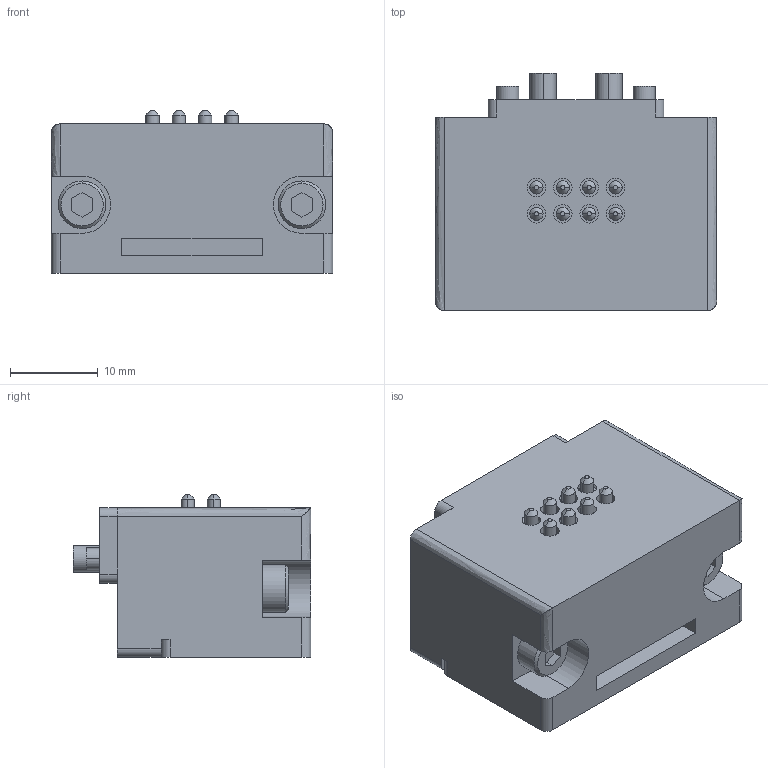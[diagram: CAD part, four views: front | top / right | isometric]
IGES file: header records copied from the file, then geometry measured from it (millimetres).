
Start section: 3D InterOp IGES (v. 2022 1.0.0), Spatial Corp. Copyright (c) 1999-2020.
Global section: file name: KHB-1HS-D38_ver1.igs; native system: Spatial Corp.; preprocessor: 3D InterOp GENERIC/IGES 3.0; author: Noname; organization: Noname; date: 20260424.090655; units: millimetre
Bounding box: 32 x 27 x 18.5 mm (x, y, z)
Surface area: 5327.5 mm2 (no closed solid volume)
Topology: 0 solids, 0 shells, 344 faces, 1626 edges, 1626 vertices
Faces by surface type: extrusion 195, revolution 149
